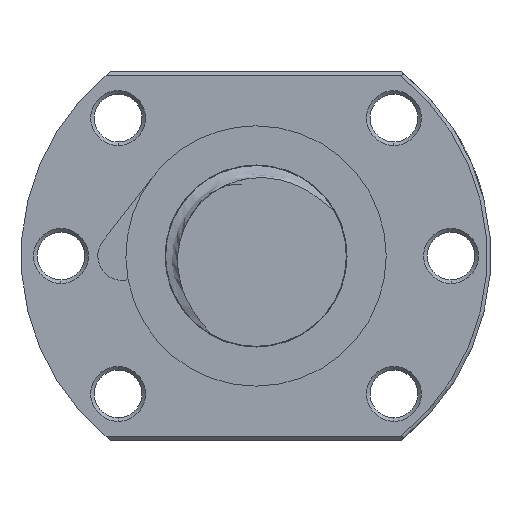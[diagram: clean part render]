
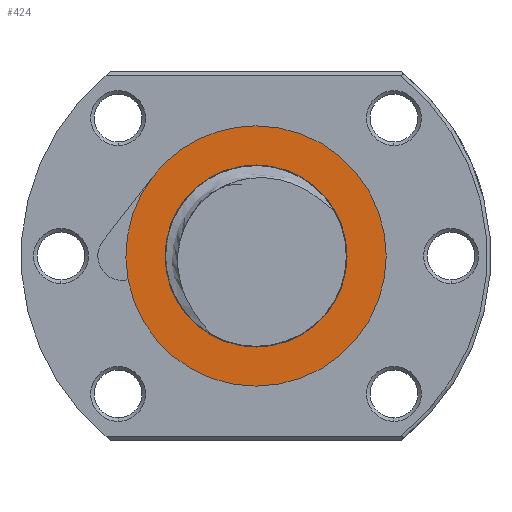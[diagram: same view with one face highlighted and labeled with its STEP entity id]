
A CAD part, left-side view. The second image highlights one B-rep face of the part: STEP entity #424.
In plain terms, the highlighted planar face has unit normal (-1, 0, 0).
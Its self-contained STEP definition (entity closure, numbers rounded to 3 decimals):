
#388 = EDGE_CURVE ( 'NONE', #389, #626, #2573, .T. ) ;
#389 = VERTEX_POINT ( 'NONE', #2568 ) ;
#423 = EDGE_CURVE ( 'NONE', #2734, #2730, #2509, .T. ) ;
#424 = ADVANCED_FACE ( 'NONE', ( #2508, #2503 ), #2502, .T. ) ;
#425 = EDGE_LOOP ( 'NONE', ( #426, #428, #429, #430 ) ) ;
#426 = ORIENTED_EDGE ( 'NONE', *, *, #427, .T. ) ;
#427 = EDGE_CURVE ( 'NONE', #640, #389, #2497, .T. ) ;
#428 = ORIENTED_EDGE ( 'NONE', *, *, #388, .T. ) ;
#429 = ORIENTED_EDGE ( 'NONE', *, *, #625, .T. ) ;
#430 = ORIENTED_EDGE ( 'NONE', *, *, #639, .T. ) ;
#625 = EDGE_CURVE ( 'NONE', #626, #627, #3659, .T. ) ;
#626 = VERTEX_POINT ( 'NONE', #3650 ) ;
#627 = VERTEX_POINT ( 'NONE', #3648 ) ;
#639 = EDGE_CURVE ( 'NONE', #627, #640, #3438, .T. ) ;
#640 = VERTEX_POINT ( 'NONE', #3430 ) ;
#952 = EDGE_LOOP ( 'NONE', ( #953, #954 ) ) ;
#953 = ORIENTED_EDGE ( 'NONE', *, *, #423, .F. ) ;
#954 = ORIENTED_EDGE ( 'NONE', *, *, #2735, .F. ) ;
#2493 = DIRECTION ( 'NONE',  ( 0., 0., 1. ) ) ;
#2494 = DIRECTION ( 'NONE',  ( -1., 0., 0. ) ) ;
#2495 = CARTESIAN_POINT ( 'NONE',  ( -110.8, 0., 0. ) ) ;
#2496 = AXIS2_PLACEMENT_3D ( 'NONE', #2495, #2494, #2493 ) ;
#2497 = CIRCLE ( 'NONE', #2496, 18.019 ) ;
#2498 = DIRECTION ( 'NONE',  ( 0., 0., 1. ) ) ;
#2499 = DIRECTION ( 'NONE',  ( -1., 0., 0. ) ) ;
#2500 = CARTESIAN_POINT ( 'NONE',  ( -110.8, 0., 12.6 ) ) ;
#2501 = AXIS2_PLACEMENT_3D ( 'NONE', #2500, #2499, #2498 ) ;
#2502 = PLANE ( 'NONE',  #2501 ) ;
#2503 = FACE_BOUND ( 'NONE', #952, .T. ) ;
#2504 = DIRECTION ( 'NONE',  ( 0., 0., 1. ) ) ;
#2505 = DIRECTION ( 'NONE',  ( -1., 0., 0. ) ) ;
#2506 = CARTESIAN_POINT ( 'NONE',  ( -110.8, 0., 0. ) ) ;
#2507 = AXIS2_PLACEMENT_3D ( 'NONE', #2506, #2505, #2504 ) ;
#2508 = FACE_OUTER_BOUND ( 'NONE', #425, .T. ) ;
#2509 = CIRCLE ( 'NONE', #2507, 12.6 ) ;
#2568 = CARTESIAN_POINT ( 'NONE',  ( -110.8, 17.717, -3.285 ) ) ;
#2569 = DIRECTION ( 'NONE',  ( 0., 0., 1. ) ) ;
#2570 = DIRECTION ( 'NONE',  ( -1., 0., 0. ) ) ;
#2571 = CARTESIAN_POINT ( 'NONE',  ( -110.8, 0., 0. ) ) ;
#2572 = AXIS2_PLACEMENT_3D ( 'NONE', #2571, #2570, #2569 ) ;
#2573 = CIRCLE ( 'NONE', #2572, 18.019 ) ;
#2730 = VERTEX_POINT ( 'NONE', #17682 ) ;
#2734 = VERTEX_POINT ( 'NONE', #17681 ) ;
#2735 = EDGE_CURVE ( 'NONE', #2730, #2734, #17679, .T. ) ;
#3430 = CARTESIAN_POINT ( 'NONE',  ( -110.8, 14.243, 11.038 ) ) ;
#3432 = DIRECTION ( 'NONE',  ( 0., 0., 1. ) ) ;
#3434 = DIRECTION ( 'NONE',  ( -1., 0., 0. ) ) ;
#3436 = AXIS2_PLACEMENT_3D ( 'NONE', #3450, #3434, #3432 ) ;
#3438 = CIRCLE ( 'NONE', #3436, 18.019 ) ;
#3450 = CARTESIAN_POINT ( 'NONE',  ( -110.8, 0., 0. ) ) ;
#3648 = CARTESIAN_POINT ( 'NONE',  ( -110.8, 0., 18.019 ) ) ;
#3650 = CARTESIAN_POINT ( 'NONE',  ( -110.8, 0., -18.019 ) ) ;
#3652 = DIRECTION ( 'NONE',  ( 0., 0., 1. ) ) ;
#3654 = DIRECTION ( 'NONE',  ( -1., 0., 0. ) ) ;
#3655 = CARTESIAN_POINT ( 'NONE',  ( -110.8, 0., 0. ) ) ;
#3657 = AXIS2_PLACEMENT_3D ( 'NONE', #3655, #3654, #3652 ) ;
#3659 = CIRCLE ( 'NONE', #3657, 18.019 ) ;
#17678 = AXIS2_PLACEMENT_3D ( 'NONE', #17736, #17735, #17734 ) ;
#17679 = CIRCLE ( 'NONE', #17678, 12.6 ) ;
#17681 = CARTESIAN_POINT ( 'NONE',  ( -110.8, 0., 12.6 ) ) ;
#17682 = CARTESIAN_POINT ( 'NONE',  ( -110.8, 0., -12.6 ) ) ;
#17734 = DIRECTION ( 'NONE',  ( 0., 0., 1. ) ) ;
#17735 = DIRECTION ( 'NONE',  ( -1., 0., 0. ) ) ;
#17736 = CARTESIAN_POINT ( 'NONE',  ( -110.8, 0., 0. ) ) ;
